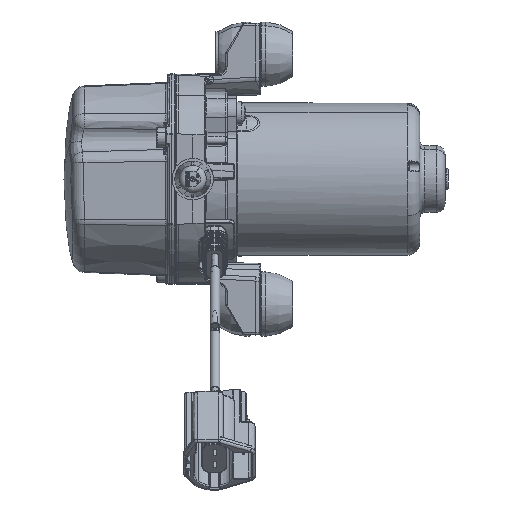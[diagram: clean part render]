
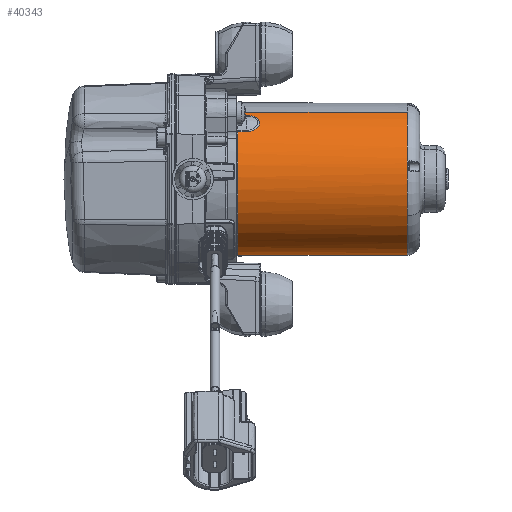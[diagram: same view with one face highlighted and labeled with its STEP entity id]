
A CAD part, front view. The second image highlights one B-rep face of the part: STEP entity #40343.
In plain terms, the highlighted cylindrical face has radius 30.8 mm (diameter 61.6 mm), a partial arc.
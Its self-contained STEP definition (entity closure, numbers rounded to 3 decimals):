
#37102=AXIS2_PLACEMENT_3D('Circle Axis2P3D',#37100,#37101,$) ;
#37109=AXIS2_PLACEMENT_3D('Circle Axis2P3D',#37107,#37108,$) ;
#37116=AXIS2_PLACEMENT_3D('Circle Axis2P3D',#37114,#37115,$) ;
#37353=AXIS2_PLACEMENT_3D('Circle Axis2P3D',#37351,#37352,$) ;
#37360=AXIS2_PLACEMENT_3D('Circle Axis2P3D',#37358,#37359,$) ;
#37367=AXIS2_PLACEMENT_3D('Circle Axis2P3D',#37365,#37366,$) ;
#40281=AXIS2_PLACEMENT_3D('Cylinder Axis2P3D',#40278,#40279,#40280) ;
#40285=AXIS2_PLACEMENT_3D('Circle Axis2P3D',#40283,#40284,$) ;
#37097=CARTESIAN_POINT('Vertex',(-13.923,-67.685,104.311)) ;
#37100=CARTESIAN_POINT('Axis2P3D Location',(-13.923,-40.656,119.077)) ;
#37104=CARTESIAN_POINT('Vertex',(-13.923,-38.387,88.361)) ;
#37107=CARTESIAN_POINT('Axis2P3D Location',(-13.923,-40.656,119.077)) ;
#37111=CARTESIAN_POINT('Vertex',(-13.923,-32.282,89.438)) ;
#37114=CARTESIAN_POINT('Axis2P3D Location',(-13.923,-40.656,119.077)) ;
#37118=CARTESIAN_POINT('Vertex',(-13.923,-25.889,92.048)) ;
#37237=CARTESIAN_POINT('Control Point',(-78.973,-64.853,138.133)) ;
#37238=CARTESIAN_POINT('Control Point',(-78.293,-64.853,138.133)) ;
#37239=CARTESIAN_POINT('Control Point',(-77.614,-64.788,138.215)) ;
#37240=CARTESIAN_POINT('Control Point',(-76.951,-64.659,138.38)) ;
#37241=CARTESIAN_POINT('Control Point',(-75.625,-64.244,138.894)) ;
#37242=CARTESIAN_POINT('Control Point',(-74.556,-63.51,139.739)) ;
#37243=CARTESIAN_POINT('Control Point',(-74.095,-63.032,140.266)) ;
#37244=CARTESIAN_POINT('Control Point',(-73.5,-61.851,141.467)) ;
#37245=CARTESIAN_POINT('Control Point',(-73.726,-60.498,142.662)) ;
#37246=CARTESIAN_POINT('Control Point',(-74.082,-59.829,143.199)) ;
#37247=CARTESIAN_POINT('Control Point',(-75.099,-58.659,144.086)) ;
#37248=CARTESIAN_POINT('Control Point',(-76.54,-57.912,144.594)) ;
#37249=CARTESIAN_POINT('Control Point',(-77.331,-57.658,144.76)) ;
#37250=CARTESIAN_POINT('Control Point',(-78.152,-57.53,144.844)) ;
#37251=CARTESIAN_POINT('Control Point',(-78.973,-57.53,144.844)) ;
#37252=CARTESIAN_POINT('Vertex',(-78.973,-64.853,138.133)) ;
#37254=CARTESIAN_POINT('Vertex',(-78.973,-57.53,144.844)) ;
#37348=CARTESIAN_POINT('Vertex',(-13.923,-55.422,146.107)) ;
#37351=CARTESIAN_POINT('Axis2P3D Location',(-13.923,-40.656,119.077)) ;
#37355=CARTESIAN_POINT('Vertex',(-13.923,-70.295,127.451)) ;
#37358=CARTESIAN_POINT('Axis2P3D Location',(-13.923,-40.656,119.077)) ;
#37362=CARTESIAN_POINT('Vertex',(-13.923,-71.372,121.346)) ;
#37365=CARTESIAN_POINT('Axis2P3D Location',(-13.923,-40.656,119.077)) ;
#40210=CARTESIAN_POINT('Vertex',(-82.523,-57.53,144.844)) ;
#40218=CARTESIAN_POINT('Line Origine',(-48.473,-57.53,144.844)) ;
#40263=CARTESIAN_POINT('Vertex',(-82.523,-64.853,138.133)) ;
#40266=CARTESIAN_POINT('Line Origine',(-48.473,-64.853,138.133)) ;
#40278=CARTESIAN_POINT('Axis2P3D Location',(0.467,-40.656,119.077)) ;
#40283=CARTESIAN_POINT('Axis2P3D Location',(-82.523,-40.656,119.077)) ;
#40287=CARTESIAN_POINT('Vertex',(-82.523,-55.422,146.107)) ;
#40291=CARTESIAN_POINT('Control Point',(-82.523,-64.853,138.133)) ;
#40292=CARTESIAN_POINT('Control Point',(-82.523,-67.338,134.977)) ;
#40293=CARTESIAN_POINT('Control Point',(-82.523,-69.309,131.416)) ;
#40294=CARTESIAN_POINT('Control Point',(-82.523,-70.677,127.562)) ;
#40295=CARTESIAN_POINT('Control Point',(-82.523,-72.107,119.548)) ;
#40296=CARTESIAN_POINT('Control Point',(-82.523,-70.918,111.495)) ;
#40297=CARTESIAN_POINT('Control Point',(-82.523,-69.665,107.601)) ;
#40298=CARTESIAN_POINT('Control Point',(-82.523,-65.939,100.364)) ;
#40299=CARTESIAN_POINT('Control Point',(-82.523,-60.106,94.686)) ;
#40300=CARTESIAN_POINT('Control Point',(-82.523,-56.748,92.351)) ;
#40301=CARTESIAN_POINT('Control Point',(-82.523,-49.394,88.861)) ;
#40302=CARTESIAN_POINT('Control Point',(-82.523,-41.312,87.887)) ;
#40303=CARTESIAN_POINT('Control Point',(-82.523,-37.226,88.069)) ;
#40304=CARTESIAN_POINT('Control Point',(-82.523,-33.244,88.914)) ;
#40305=CARTESIAN_POINT('Control Point',(-82.523,-29.5,90.369)) ;
#40306=CARTESIAN_POINT('Vertex',(-82.523,-29.5,90.369)) ;
#40310=CARTESIAN_POINT('Control Point',(-82.523,-29.5,90.369)) ;
#40311=CARTESIAN_POINT('Control Point',(-82.523,-28.262,90.85)) ;
#40312=CARTESIAN_POINT('Control Point',(-82.523,-27.055,91.411)) ;
#40313=CARTESIAN_POINT('Control Point',(-82.523,-25.889,92.048)) ;
#40314=CARTESIAN_POINT('Vertex',(-82.523,-25.889,92.048)) ;
#40317=CARTESIAN_POINT('Line Origine',(0.467,-25.889,92.048)) ;
#40322=CARTESIAN_POINT('Line Origine',(0.467,-55.422,146.107)) ;
#37101=DIRECTION('Axis2P3D Direction',(1.,0.,-0.)) ;
#37108=DIRECTION('Axis2P3D Direction',(1.,0.,-0.)) ;
#37115=DIRECTION('Axis2P3D Direction',(1.,0.,-0.)) ;
#37352=DIRECTION('Axis2P3D Direction',(1.,0.,-0.)) ;
#37359=DIRECTION('Axis2P3D Direction',(1.,0.,-0.)) ;
#37366=DIRECTION('Axis2P3D Direction',(1.,0.,-0.)) ;
#40219=DIRECTION('Vector Direction',(1.,0.,0.)) ;
#40267=DIRECTION('Vector Direction',(-1.,0.,0.)) ;
#40279=DIRECTION('Axis2P3D Direction',(1.,0.,0.)) ;
#40280=DIRECTION('Axis2P3D XDirection',(0.,-0.479,0.878)) ;
#40284=DIRECTION('Axis2P3D Direction',(1.,0.,0.)) ;
#40318=DIRECTION('Vector Direction',(1.,0.,0.)) ;
#40323=DIRECTION('Vector Direction',(1.,0.,0.)) ;
#40220=VECTOR('Line Direction',#40219,1.) ;
#40268=VECTOR('Line Direction',#40267,1.) ;
#40319=VECTOR('Line Direction',#40318,1.) ;
#40324=VECTOR('Line Direction',#40323,1.) ;
#40328=ORIENTED_EDGE('',*,*,#40289,.F.) ;
#40329=ORIENTED_EDGE('',*,*,#40222,.F.) ;
#40330=ORIENTED_EDGE('',*,*,#37256,.F.) ;
#40331=ORIENTED_EDGE('',*,*,#40270,.F.) ;
#40332=ORIENTED_EDGE('',*,*,#40308,.F.) ;
#40333=ORIENTED_EDGE('',*,*,#40316,.F.) ;
#40334=ORIENTED_EDGE('',*,*,#40321,.F.) ;
#40335=ORIENTED_EDGE('',*,*,#37120,.F.) ;
#40336=ORIENTED_EDGE('',*,*,#37113,.F.) ;
#40337=ORIENTED_EDGE('',*,*,#37106,.F.) ;
#40338=ORIENTED_EDGE('',*,*,#37369,.F.) ;
#40339=ORIENTED_EDGE('',*,*,#37364,.F.) ;
#40340=ORIENTED_EDGE('',*,*,#37357,.F.) ;
#40341=ORIENTED_EDGE('',*,*,#40326,.T.) ;
#40343=ADVANCED_FACE('VACUUM_PUMP_UP5.0_FILLED_PART',(#40342),#40282,.T.) ;
#37236=B_SPLINE_CURVE_WITH_KNOTS('',5,(#37237,#37238,#37239,#37240,#37241,#37242,#37243,#37244,#37245,#37246,#37247,#37248,#37249,#37250,#37251),.UNSPECIFIED.,.F.,.U.,(6,3,3,3,6),(18.513,21.912,25.661,29.609,33.713),.UNSPECIFIED.) ;
#40290=B_SPLINE_CURVE_WITH_KNOTS('',5,(#40291,#40292,#40293,#40294,#40295,#40296,#40297,#40298,#40299,#40300,#40301,#40302,#40303,#40304,#40305),.UNSPECIFIED.,.F.,.U.,(6,3,3,3,6),(-42.163,-22.078,-1.992,18.093,38.179),.UNSPECIFIED.) ;
#40309=B_SPLINE_CURVE_WITH_KNOTS('',3,(#40310,#40311,#40312,#40313),.UNSPECIFIED.,.F.,.U.,(4,4),(38.179,42.163),.UNSPECIFIED.) ;
#37103=CIRCLE('generated circle',#37102,30.8) ;
#37110=CIRCLE('generated circle',#37109,30.8) ;
#37117=CIRCLE('generated circle',#37116,30.8) ;
#37354=CIRCLE('generated circle',#37353,30.8) ;
#37361=CIRCLE('generated circle',#37360,30.8) ;
#37368=CIRCLE('generated circle',#37367,30.8) ;
#40286=CIRCLE('generated circle',#40285,30.8) ;
#40282=CYLINDRICAL_SURFACE('generated cylinder',#40281,30.8) ;
#37106=EDGE_CURVE('',#37098,#37105,#37103,.T.) ;
#37113=EDGE_CURVE('',#37105,#37112,#37110,.T.) ;
#37120=EDGE_CURVE('',#37112,#37119,#37117,.T.) ;
#37256=EDGE_CURVE('',#37253,#37255,#37236,.T.) ;
#37357=EDGE_CURVE('',#37349,#37356,#37354,.T.) ;
#37364=EDGE_CURVE('',#37356,#37363,#37361,.T.) ;
#37369=EDGE_CURVE('',#37363,#37098,#37368,.T.) ;
#40222=EDGE_CURVE('',#37255,#40211,#40221,.F.) ;
#40270=EDGE_CURVE('',#40264,#37253,#40269,.F.) ;
#40289=EDGE_CURVE('',#40211,#40288,#40286,.F.) ;
#40308=EDGE_CURVE('',#40307,#40264,#40290,.F.) ;
#40316=EDGE_CURVE('',#40315,#40307,#40309,.F.) ;
#40321=EDGE_CURVE('',#37119,#40315,#40320,.F.) ;
#40326=EDGE_CURVE('',#37349,#40288,#40325,.F.) ;
#40327=EDGE_LOOP('',(#40328,#40329,#40330,#40331,#40332,#40333,#40334,#40335,#40336,#40337,#40338,#40339,#40340,#40341)) ;
#40342=FACE_OUTER_BOUND('',#40327,.T.) ;
#40221=LINE('Line',#40218,#40220) ;
#40269=LINE('Line',#40266,#40268) ;
#40320=LINE('Line',#40317,#40319) ;
#40325=LINE('Line',#40322,#40324) ;
#37098=VERTEX_POINT('',#37097) ;
#37105=VERTEX_POINT('',#37104) ;
#37112=VERTEX_POINT('',#37111) ;
#37119=VERTEX_POINT('',#37118) ;
#37253=VERTEX_POINT('',#37252) ;
#37255=VERTEX_POINT('',#37254) ;
#37349=VERTEX_POINT('',#37348) ;
#37356=VERTEX_POINT('',#37355) ;
#37363=VERTEX_POINT('',#37362) ;
#40211=VERTEX_POINT('',#40210) ;
#40264=VERTEX_POINT('',#40263) ;
#40288=VERTEX_POINT('',#40287) ;
#40307=VERTEX_POINT('',#40306) ;
#40315=VERTEX_POINT('',#40314) ;
